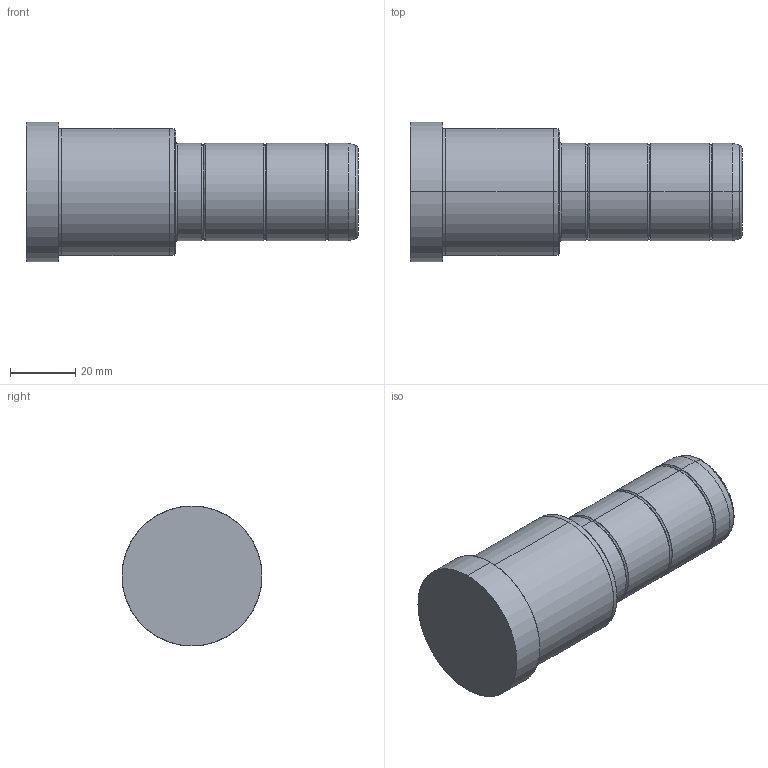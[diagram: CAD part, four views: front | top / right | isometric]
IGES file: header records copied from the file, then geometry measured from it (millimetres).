
Start section: SolidWorks IGES file using analytic representation for surfaces
Global section: file name: C:\Documents and Settings\kalite-mail\Desktop\IGS\D02\30\D02 - 30x46x56.IGS; native system: SolidWorks 2008; preprocessor: SolidWorks 2008; author: kalite-mail; date: 080617.090619; units: millimetre
Bounding box: 102 x 43 x 43 mm (x, y, z)
Surface area: 13952.1 mm2 (no closed solid volume)
Topology: 0 solids, 0 shells, 42 faces, 752 edges, 752 vertices
Faces by surface type: bspline 22, revolution 20
